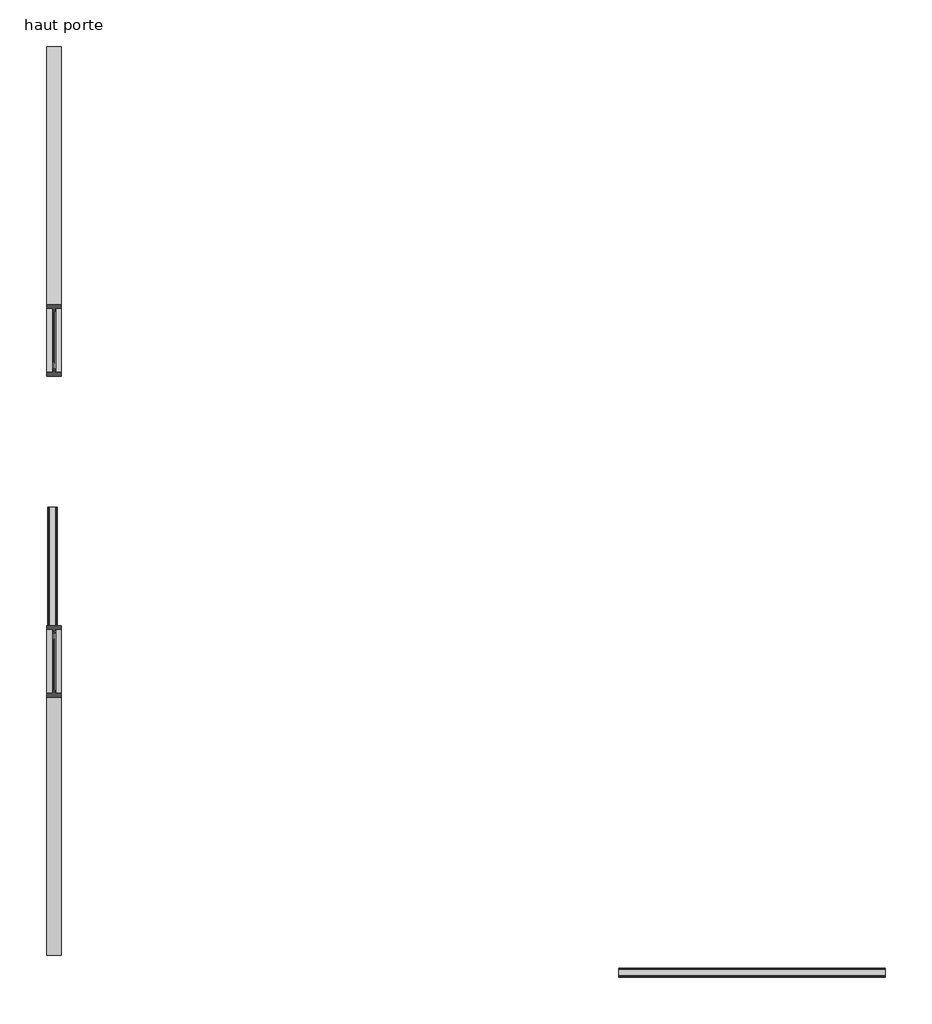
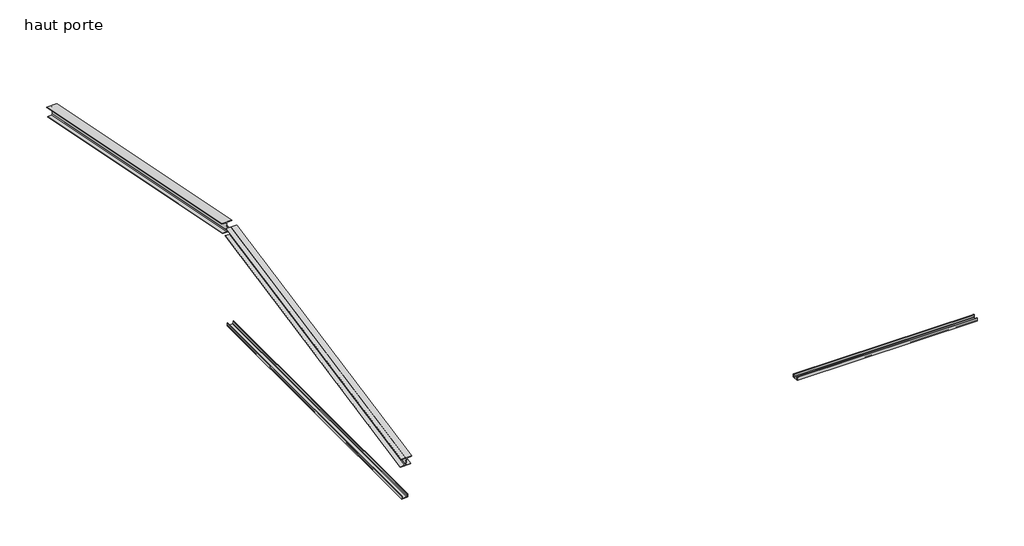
# One storey: 4 beams.
"""IFC4 building model written with IfcOpenShell, lengths in millimetres."""

from ifc_helpers import new_model, si_unit, point, frame, frame_2d, origin, place, context, project, spatial, polyline, circle_curve, trimmed, segment, composite_curve, outline, extrude, transform, mapped, element, save
from components import upn_upn100_cb6639ca, upn_upn100_519bee6b

model = new_model("IFC4")

# Units and contexts
model_context = context("Model", 3, world=origin())
ifc_project = project(units=[si_unit("LENGTHUNIT", "METRE", prefix="MILLI")], contexts=[model_context])

# Site, building, storey
site = spatial("IfcSite", under=ifc_project)
building = spatial("IfcBuilding", under=site)
storey = spatial("IfcBuildingStorey", under=building, Name="haut porte", Elevation=2350.0)

# Beams
placement = place(None, origin())
element("IfcBeam", 1, ObjectType="HE-A : HEA160", at=placement, inside=storey, context=model_context, shape_type="SweptSolid", body=[
    extrude(outline(composite_curve([segment(polyline([(-67.0, -80.0), (-76.0000001, -80.0), (-76.0000001, 80.0), (-67.0, 80.0), (-67.0, 18.0)]), True, "CONTINUOUS"), segment(trimmed(circle_curve(frame_2d((-52.0, 18.0)), 15.0), [point((-67.0, 18.0))], [point((-52.0, 3.0))], True, "CARTESIAN"), True, "CONTINUOUS"), segment(polyline([(-52.0, 3.0), (52.0, 3.0)]), True, "CONTINUOUS"), segment(trimmed(circle_curve(frame_2d((52.0, 18.0)), 15.0), [point((52.0, 3.0))], [point((67.0, 18.0))], True, "CARTESIAN"), True, "CONTINUOUS"), segment(polyline([(67.0, 18.0), (67.0, 80.0), (76.0, 80.0), (76.0, -80.0), (67.0, -80.0), (67.0, -18.0)]), True, "CONTINUOUS"), segment(trimmed(circle_curve(frame_2d((52.0, -18.0)), 15.0), [point((67.0, -18.0))], [point((52.0, -3.0))], True, "CARTESIAN"), True, "CONTINUOUS"), segment(polyline([(52.0, -3.0), (-52.0, -3.0)]), True, "CONTINUOUS"), segment(trimmed(circle_curve(frame_2d((-52.0, -18.0)), 15.0), [point((-52.0, -3.0))], [point((-67.0, -18.0))], True, "CARTESIAN"), True, "CONTINUOUS"), segment(polyline([(-67.0, -18.0), (-67.0, -80.0)]), True, "CONTINUOUS")], self_intersect=False)), frame((-16233.8291149, 1050.0333358, 2922.0088509), z_axis=(0.0, 0.9805806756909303, 0.19611613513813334), x_axis=(0.0, -0.19611613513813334, 0.9805806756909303)), (0.0, 0.0, 1.0), 4910.4),
])
element("IfcBeam", 2, ObjectType="HE-A : HEA160", at=placement, inside=storey, context=model_context, shape_type="SweptSolid", body=[
    extrude(outline(composite_curve([segment(polyline([(-67.0, 80.0), (-67.0, 18.0)]), True, "CONTINUOUS"), segment(trimmed(circle_curve(frame_2d((-52.0, 18.0)), 15.0), [point((-67.0, 18.0))], [point((-52.0, 3.0))], True, "CARTESIAN"), True, "CONTINUOUS"), segment(polyline([(-52.0, 3.0), (52.0, 3.0)]), True, "CONTINUOUS"), segment(trimmed(circle_curve(frame_2d((52.0, 18.0)), 15.0), [point((52.0, 3.0))], [point((67.0, 18.0))], True, "CARTESIAN"), True, "CONTINUOUS"), segment(polyline([(67.0, 18.0), (67.0, 80.0), (75.9999999, 80.0), (75.9999999, -80.0), (67.0, -80.0), (67.0, -18.0)]), True, "CONTINUOUS"), segment(trimmed(circle_curve(frame_2d((52.0, -18.0)), 15.0), [point((67.0, -18.0))], [point((52.0, -3.0))], True, "CARTESIAN"), True, "CONTINUOUS"), segment(polyline([(52.0, -3.0), (-52.0, -3.0)]), True, "CONTINUOUS"), segment(trimmed(circle_curve(frame_2d((-52.0, -18.0)), 15.0), [point((-52.0, -3.0))], [point((-67.0, -18.0))], True, "CARTESIAN"), True, "CONTINUOUS"), segment(polyline([(-67.0, -18.0), (-67.0, -80.0), (-76.0000001, -80.0), (-76.0000001, 80.0), (-67.0, 80.0)]), True, "CONTINUOUS")], self_intersect=False)), frame((-16233.8291149, 10784.8938609, 2922.0088509), z_axis=(0.0, -0.9805806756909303, 0.19611613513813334), x_axis=(0.0, 0.19611613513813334, 0.9805806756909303)), (0.0, 0.0, 1.0), 4910.4),
])
upn_upn100_shape = upn_upn100_cb6639ca(model_context)
element("IfcBeam", 3, ObjectType="UPN : UPN100", at=placement, inside=storey, context=model_context, shape_type="MappedRepresentation", body=[
    mapped(upn_upn100_shape, transform((-8733.8291149, 847.4635983, 2330.0), x_axis=(1.0, 0.0, 0.0), y_axis=(0.0, 0.0, -1.0), z_axis=(0.0, 1.0, 0.0))),
])
upn_upn100_2_shape = upn_upn100_519bee6b(model_context)
element("IfcBeam", 4, ObjectType="UPN : UPN100", at=placement, inside=storey, context=model_context, shape_type="MappedRepresentation", body=[
    mapped(upn_upn100_2_shape, transform((-16251.3291149, 3517.4635983, 2330.0), x_axis=(0.0, -1.0000000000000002, 0.0), y_axis=(0.0, 0.0, -1.0000000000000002), z_axis=(1.0000000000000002, 0.0, 0.0))),
])

save(model, "model.ifc")
